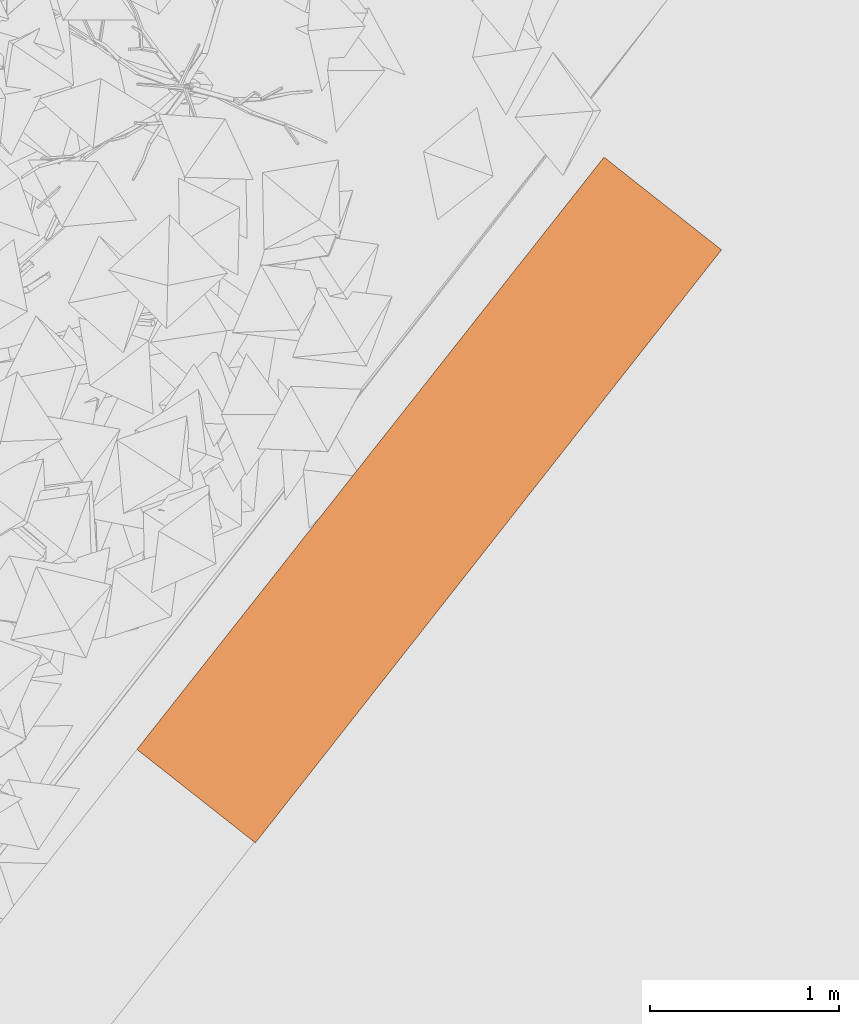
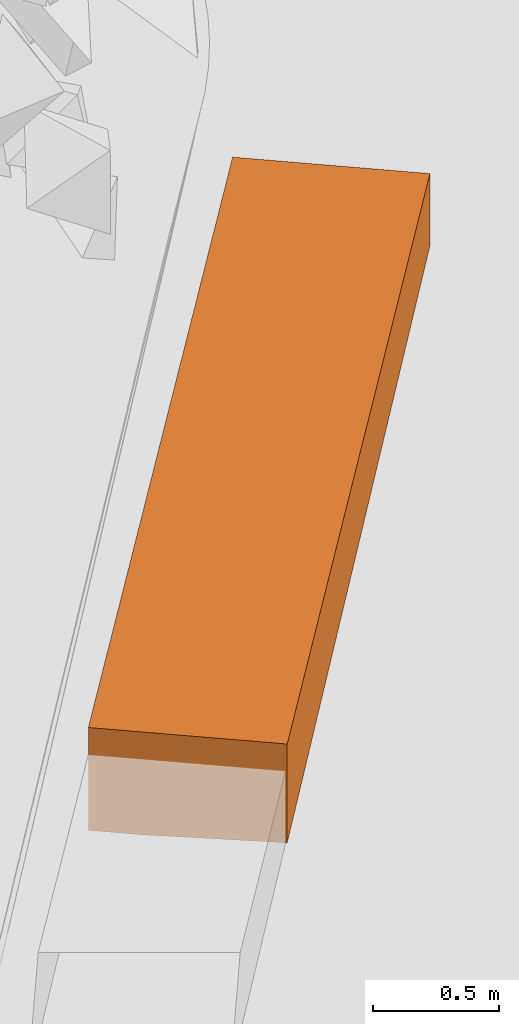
# One storey, part 53 of 69: 1 proxy.
"""IFC2X3 building model written with IfcOpenShell, lengths in millimetres."""

from ifc_helpers import new_model, entity, si_unit, converted_unit, derived_unit, money_unit, direction, frame, origin_with_axes, place, context, subcontext, project, spatial, faceted_brep, material, type_object, element, save


model = new_model("IFC2X3")

# Units and contexts
model_context = context("Model", 3, precision=0.01, world=origin_with_axes(), true_north=direction((0.0, 1.0)))
body_context = subcontext(model_context, "Body", "Model", "MODEL_VIEW")
ifc_project = project(units=[si_unit("LENGTHUNIT", "METRE", prefix="MILLI"), si_unit("AREAUNIT", "SQUARE_METRE"), si_unit("VOLUMEUNIT", "CUBIC_METRE"), converted_unit("PLANEANGLEUNIT", "DEGREE", entity("IfcPlaneAngleMeasure", 0.0174532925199), si_unit("PLANEANGLEUNIT", "RADIAN"), dimensions=[0, 0, 0, 0, 0, 0, 0]), si_unit("SOLIDANGLEUNIT", "STERADIAN"), money_unit("EUR"), converted_unit("TIMEUNIT", "Year", entity("IfcTimeMeasure", 31556926.0), si_unit("TIMEUNIT", "SECOND"), dimensions=[0, 0, 1, 0, 0, 0, 0]), si_unit("MASSUNIT", "GRAM", prefix="KILO"), si_unit("THERMODYNAMICTEMPERATUREUNIT", "DEGREE_CELSIUS"), si_unit("LUMINOUSINTENSITYUNIT", "LUMEN"), si_unit("ENERGYUNIT", "JOULE", prefix="MEGA"), derived_unit("THERMALCONDUCTANCEUNIT", [(si_unit("POWERUNIT", "WATT"), 1), (si_unit("LENGTHUNIT", "METRE"), -1), (si_unit("THERMODYNAMICTEMPERATUREUNIT", "KELVIN"), -1)]), derived_unit("SPECIFICHEATCAPACITYUNIT", [(si_unit("ENERGYUNIT", "JOULE"), 1), (si_unit("MASSUNIT", "GRAM", prefix="KILO"), -1), (si_unit("THERMODYNAMICTEMPERATUREUNIT", "KELVIN"), -1)]), derived_unit("MASSDENSITYUNIT", [(si_unit("MASSUNIT", "GRAM", prefix="KILO"), 1), (si_unit("VOLUMEUNIT", "CUBIC_METRE"), -1)])], contexts=[model_context])

# Site, building, storey
site_placement = place(None, origin_with_axes())
site = spatial("IfcSite", under=ifc_project, at=site_placement, Name="Puškini 31, Narva", CompositionType="ELEMENT")
building_placement = place(site_placement, origin_with_axes())
building = spatial("IfcBuilding", under=site, at=building_placement, Name="Narva Riigigümnaasium", CompositionType="ELEMENT")
storey_placement = place(building_placement, origin_with_axes())
storey = spatial("IfcBuildingStorey", under=building, at=storey_placement, Name="1.korrus 0.00", CompositionType="ELEMENT", Elevation=0.0)

# Proxy
ifc_material = material(Name="Puit - Põrand")
building_element_proxy_type = type_object("IfcBuildingElementProxyType", Name="Puit - Põrand 500", PredefinedType="NOTDEFINED")
proxy_placement = place(storey_placement, frame((8931.00845847, 157306.627028, 86.5484048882), z_axis=(0.0, 0.0, 1.0), x_axis=(1.0, 0.0, 0.0)))
element("IfcBuildingElementProxy", 1, at=proxy_placement, inside=storey, type_object=building_element_proxy_type, material=ifc_material, Name="Pink-2", context=body_context, shape_type="Brep", body=[
    faceted_brep([(-1848.54354883, -3636.32874539, -480.044951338), (623.345299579, -491.535039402, -350.746396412), (623.345299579, -491.535039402, 0.0), (-1848.54354883, -3636.32874539, 0.0), (0.0, 0.0, -377.895508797), (-2306.71183144, -3275.05191878, -500.0), (-2335.11945559, -2961.37917015, -500.0), (0.0, 0.0, 0.0), (-2476.73970958, -3140.98080434, 0.0), (-2476.73970958, -3140.98080434, -500.0)], [[[0, 1, 2, 3]], [[4, 1, 0, 5, 6]], [[1, 4, 7, 2]], [[2, 7, 8, 3]], [[5, 0, 3, 8, 9]], [[6, 5, 9]], [[4, 6, 9, 8, 7]]]),
])

save(model, "model.ifc")
